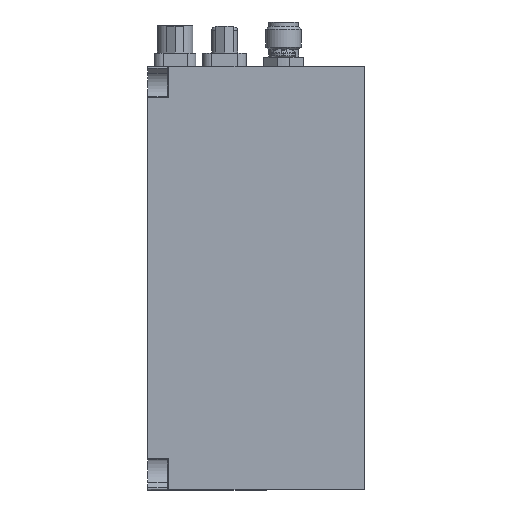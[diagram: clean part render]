
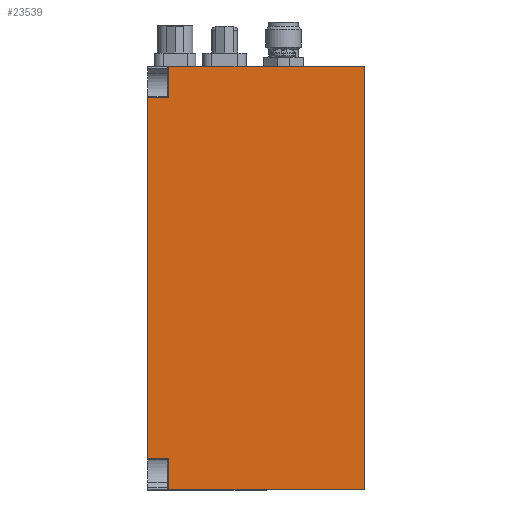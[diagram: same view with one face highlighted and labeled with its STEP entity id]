
A CAD part, left-side view. The second image highlights one B-rep face of the part: STEP entity #23539.
In plain terms, the highlighted planar face has unit normal (-1, 0, 0).
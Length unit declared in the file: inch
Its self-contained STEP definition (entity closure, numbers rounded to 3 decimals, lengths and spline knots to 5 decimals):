
#163 = VECTOR ( 'NONE', #27047, 39.37008 ) ;
#2489 = VECTOR ( 'NONE', #42265, 39.37008 ) ;
#2658 = EDGE_CURVE ( 'NONE', #28671, #21779, #30499, .T. ) ;
#2841 = ORIENTED_EDGE ( 'NONE', *, *, #2658, .T. ) ;
#3491 = CARTESIAN_POINT ( 'NONE',  ( -2., 1.53445, -1.5 ) ) ;
#4068 = DIRECTION ( 'NONE',  ( 0., -1., 0. ) ) ;
#4238 = CARTESIAN_POINT ( 'NONE',  ( -2., 0., 1.5 ) ) ;
#5144 = VECTOR ( 'NONE', #41455, 39.37008 ) ;
#5370 = EDGE_CURVE ( 'NONE', #42033, #28181, #38435, .T. ) ;
#8066 = CARTESIAN_POINT ( 'NONE',  ( -2., 0., -1.5 ) ) ;
#8348 = CARTESIAN_POINT ( 'NONE',  ( -2., 1.38445, 1.5 ) ) ;
#9438 = LINE ( 'NONE', #24255, #10509 ) ;
#10057 = ORIENTED_EDGE ( 'NONE', *, *, #37090, .F. ) ;
#10509 = VECTOR ( 'NONE', #41866, 39.37008 ) ;
#10787 = FACE_OUTER_BOUND ( 'NONE', #44458, .T. ) ;
#11333 = EDGE_CURVE ( 'NONE', #14506, #28181, #44091, .T. ) ;
#11560 = DIRECTION ( 'NONE',  ( 0., 1., 0. ) ) ;
#11721 = CARTESIAN_POINT ( 'NONE',  ( -2., 1.39445, -1.27698 ) ) ;
#11789 = VECTOR ( 'NONE', #22032, 39.37008 ) ;
#12011 = ORIENTED_EDGE ( 'NONE', *, *, #11333, .T. ) ;
#12359 = CARTESIAN_POINT ( 'NONE',  ( -2., 0., -1.5 ) ) ;
#14375 = ORIENTED_EDGE ( 'NONE', *, *, #33991, .T. ) ;
#14504 = CARTESIAN_POINT ( 'NONE',  ( -2., 1.53445, 1.27698 ) ) ;
#14506 = VERTEX_POINT ( 'NONE', #44035 ) ;
#14651 = VERTEX_POINT ( 'NONE', #4238 ) ;
#15208 = ORIENTED_EDGE ( 'NONE', *, *, #5370, .F. ) ;
#16739 = DIRECTION ( 'NONE',  ( 1., 0., 0. ) ) ;
#18120 = VECTOR ( 'NONE', #35096, 39.37008 ) ;
#19544 = CARTESIAN_POINT ( 'NONE',  ( -2., 1.38445, -1.5 ) ) ;
#20385 = VECTOR ( 'NONE', #4068, 39.37008 ) ;
#21779 = VERTEX_POINT ( 'NONE', #19544 ) ;
#22032 = DIRECTION ( 'NONE',  ( 0., 0., -1. ) ) ;
#23468 = CARTESIAN_POINT ( 'NONE',  ( -2., 1.39445, 1.27698 ) ) ;
#23539 = ADVANCED_FACE ( 'NONE', ( #10787 ), #34007, .F. ) ;
#23817 = DIRECTION ( 'NONE',  ( 0., 0., -1. ) ) ;
#24255 = CARTESIAN_POINT ( 'NONE',  ( -2., 1.38445, 1.27698 ) ) ;
#25076 = CARTESIAN_POINT ( 'NONE',  ( -2., 1.38445, -1.27698 ) ) ;
#25271 = ORIENTED_EDGE ( 'NONE', *, *, #41810, .F. ) ;
#27047 = DIRECTION ( 'NONE',  ( 0., 1., 0. ) ) ;
#27092 = CARTESIAN_POINT ( 'NONE',  ( -2., 1.53445, -1.5 ) ) ;
#28146 = LINE ( 'NONE', #3491, #20385 ) ;
#28181 = VERTEX_POINT ( 'NONE', #14504 ) ;
#28671 = VERTEX_POINT ( 'NONE', #25076 ) ;
#30436 = LINE ( 'NONE', #11721, #38590 ) ;
#30499 = LINE ( 'NONE', #43352, #11789 ) ;
#32198 = CARTESIAN_POINT ( 'NONE',  ( -2., 1.53445, 1.5 ) ) ;
#32726 = ORIENTED_EDGE ( 'NONE', *, *, #42072, .T. ) ;
#33991 = EDGE_CURVE ( 'NONE', #41089, #14651, #41911, .T. ) ;
#34007 = PLANE ( 'NONE',  #34989 ) ;
#34327 = LINE ( 'NONE', #32198, #2489 ) ;
#34989 = AXIS2_PLACEMENT_3D ( 'NONE', #27092, #16739, #23817 ) ;
#35040 = EDGE_CURVE ( 'NONE', #21779, #41089, #28146, .T. ) ;
#35096 = DIRECTION ( 'NONE',  ( 0., 0., 1. ) ) ;
#37090 = EDGE_CURVE ( 'NONE', #41707, #14651, #34327, .T. ) ;
#37975 = CARTESIAN_POINT ( 'NONE',  ( -2., 1.53445, -1.5 ) ) ;
#38435 = LINE ( 'NONE', #37975, #18120 ) ;
#38590 = VECTOR ( 'NONE', #11560, 39.37008 ) ;
#41089 = VERTEX_POINT ( 'NONE', #8066 ) ;
#41455 = DIRECTION ( 'NONE',  ( 0., 0., 1. ) ) ;
#41707 = VERTEX_POINT ( 'NONE', #8348 ) ;
#41810 = EDGE_CURVE ( 'NONE', #28671, #42033, #30436, .T. ) ;
#41866 = DIRECTION ( 'NONE',  ( 0., 0., -1. ) ) ;
#41911 = LINE ( 'NONE', #12359, #5144 ) ;
#42033 = VERTEX_POINT ( 'NONE', #42333 ) ;
#42072 = EDGE_CURVE ( 'NONE', #41707, #14506, #9438, .T. ) ;
#42265 = DIRECTION ( 'NONE',  ( 0., -1., 0. ) ) ;
#42333 = CARTESIAN_POINT ( 'NONE',  ( -2., 1.53445, -1.27698 ) ) ;
#43352 = CARTESIAN_POINT ( 'NONE',  ( -2., 1.38445, -1.5 ) ) ;
#44035 = CARTESIAN_POINT ( 'NONE',  ( -2., 1.38445, 1.27698 ) ) ;
#44091 = LINE ( 'NONE', #23468, #163 ) ;
#44353 = ORIENTED_EDGE ( 'NONE', *, *, #35040, .T. ) ;
#44458 = EDGE_LOOP ( 'NONE', ( #25271, #2841, #44353, #14375, #10057, #32726, #12011, #15208 ) ) ;
